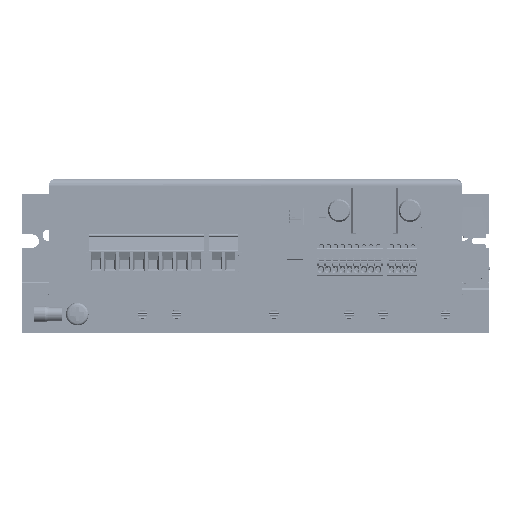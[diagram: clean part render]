
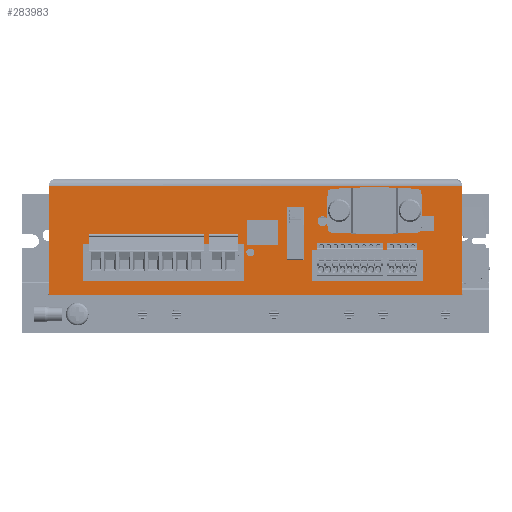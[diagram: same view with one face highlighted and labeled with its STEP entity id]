
A CAD part, top view. The second image highlights one B-rep face of the part: STEP entity #283983.
In plain terms, the highlighted planar face has unit normal (0, 0, 1).
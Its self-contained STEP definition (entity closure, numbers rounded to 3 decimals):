
#276242=CARTESIAN_POINT('',(73.,38.5,56.5));
#276244=DIRECTION('',(-1.,0.,0.));
#276245=VECTOR('',#276244,146.);
#276246=CARTESIAN_POINT('',(73.,38.5,56.5));
#276247=LINE('',#276246,#276245);
#276248=CARTESIAN_POINT('',(-73.,38.5,56.5));
#277016=DIRECTION('',(0.,-1.,0.));
#277017=VECTOR('',#277016,39.5);
#277018=CARTESIAN_POINT('',(-73.,38.5,56.5));
#277019=LINE('',#277018,#277017);
#277024=DIRECTION('',(0.,-1.,0.));
#277025=VECTOR('',#277024,39.5);
#277026=CARTESIAN_POINT('',(73.,38.5,56.5));
#277027=LINE('',#277026,#277025);
#277028=DIRECTION('',(-1.,0.,0.));
#277029=VECTOR('',#277028,146.);
#277030=CARTESIAN_POINT('',(73.,-1.,56.5));
#277031=LINE('',#277030,#277029);
#277032=DIRECTION('',(-1.,0.,0.));
#277033=VECTOR('',#277032,39.);
#277034=CARTESIAN_POINT('',(59.,16.,56.5));
#277035=LINE('',#277034,#277033);
#277036=DIRECTION('',(0.,-1.,0.));
#277037=VECTOR('',#277036,11.);
#277038=CARTESIAN_POINT('',(20.,16.,56.5));
#277039=LINE('',#277038,#277037);
#277040=DIRECTION('',(1.,0.,0.));
#277041=VECTOR('',#277040,39.);
#277042=CARTESIAN_POINT('',(20.,5.,56.5));
#277043=LINE('',#277042,#277041);
#277044=DIRECTION('',(0.,1.,0.));
#277045=VECTOR('',#277044,11.);
#277046=CARTESIAN_POINT('',(59.,5.,56.5));
#277047=LINE('',#277046,#277045);
#277048=DIRECTION('',(0.,1.,0.));
#277049=VECTOR('',#277048,13.);
#277050=CARTESIAN_POINT('',(-4.,5.,56.5));
#277051=LINE('',#277050,#277049);
#277052=DIRECTION('',(-1.,0.,0.));
#277053=VECTOR('',#277052,57.);
#277054=CARTESIAN_POINT('',(-4.,18.,56.5));
#277055=LINE('',#277054,#277053);
#277056=DIRECTION('',(0.,-1.,0.));
#277057=VECTOR('',#277056,13.);
#277058=CARTESIAN_POINT('',(-61.,18.,56.5));
#277059=LINE('',#277058,#277057);
#277060=DIRECTION('',(1.,0.,0.));
#277061=VECTOR('',#277060,57.);
#277062=CARTESIAN_POINT('',(-61.,5.,56.5));
#277063=LINE('',#277062,#277061);
#277064=DIRECTION('',(-1.,0.,0.));
#277065=VECTOR('',#277064,11.);
#277066=CARTESIAN_POINT('',(8.,26.3,56.5));
#277067=LINE('',#277066,#277065);
#277068=DIRECTION('',(0.,-1.,0.));
#277069=VECTOR('',#277068,8.5);
#277070=CARTESIAN_POINT('',(-3.,26.3,56.5));
#277071=LINE('',#277070,#277069);
#277072=DIRECTION('',(1.,0.,0.));
#277073=VECTOR('',#277072,11.);
#277074=CARTESIAN_POINT('',(-3.,17.8,56.5));
#277075=LINE('',#277074,#277073);
#277076=DIRECTION('',(0.,1.,0.));
#277077=VECTOR('',#277076,8.5);
#277078=CARTESIAN_POINT('',(8.,17.8,56.5));
#277079=LINE('',#277078,#277077);
#277080=DIRECTION('',(-1.,0.,0.));
#277081=VECTOR('',#277080,6.);
#277082=CARTESIAN_POINT('',(17.,30.9,56.5));
#277083=LINE('',#277082,#277081);
#277084=DIRECTION('',(0.,-1.,0.));
#277085=VECTOR('',#277084,18.4);
#277086=CARTESIAN_POINT('',(11.,30.9,56.5));
#277087=LINE('',#277086,#277085);
#277088=DIRECTION('',(1.,0.,0.));
#277089=VECTOR('',#277088,6.);
#277090=CARTESIAN_POINT('',(11.,12.5,56.5));
#277091=LINE('',#277090,#277089);
#277092=DIRECTION('',(0.,1.,0.));
#277093=VECTOR('',#277092,18.4);
#277094=CARTESIAN_POINT('',(17.,12.5,56.5));
#277095=LINE('',#277094,#277093);
#277096=CARTESIAN_POINT('',(-1.9,15.,56.5));
#277097=DIRECTION('',(0.,0.,1.));
#277098=DIRECTION('',(-1.,0.,0.));
#277099=AXIS2_PLACEMENT_3D('',#277096,#277097,#277098);
#277101=CARTESIAN_POINT('',(-1.9,15.,56.5));
#277102=DIRECTION('',(0.,0.,1.));
#277103=DIRECTION('',(1.,0.,0.));
#277104=AXIS2_PLACEMENT_3D('',#277101,#277102,#277103);
#277106=CARTESIAN_POINT('',(23.6,26.1,56.5));
#277107=DIRECTION('',(0.,0.,1.));
#277108=DIRECTION('',(0.,1.,0.));
#277109=AXIS2_PLACEMENT_3D('',#277106,#277107,#277108);
#277111=CARTESIAN_POINT('',(23.6,26.1,56.5));
#277112=DIRECTION('',(0.,0.,1.));
#277113=DIRECTION('',(0.,-1.,0.));
#277114=AXIS2_PLACEMENT_3D('',#277111,#277112,#277113);
#277116=DIRECTION('',(0.,1.,0.));
#277117=VECTOR('',#277116,9.);
#277118=CARTESIAN_POINT('',(58.5,28.,56.5));
#277119=LINE('',#277118,#277117);
#277120=DIRECTION('',(-1.,0.,0.));
#277121=VECTOR('',#277120,33.);
#277122=CARTESIAN_POINT('',(58.5,37.,56.5));
#277123=LINE('',#277122,#277121);
#277124=DIRECTION('',(0.,-1.,0.));
#277125=VECTOR('',#277124,14.5);
#277126=CARTESIAN_POINT('',(25.5,37.,56.5));
#277127=LINE('',#277126,#277125);
#277128=DIRECTION('',(1.,0.,0.));
#277129=VECTOR('',#277128,33.);
#277130=CARTESIAN_POINT('',(25.5,22.5,56.5));
#277131=LINE('',#277130,#277129);
#277132=DIRECTION('',(1.,0.,0.));
#277133=VECTOR('',#277132,4.5);
#277134=CARTESIAN_POINT('',(58.5,22.5,56.5));
#277135=LINE('',#277134,#277133);
#277136=DIRECTION('',(0.,1.,0.));
#277137=VECTOR('',#277136,5.5);
#277138=CARTESIAN_POINT('',(63.,22.5,56.5));
#277139=LINE('',#277138,#277137);
#277140=DIRECTION('',(-1.,0.,0.));
#277141=VECTOR('',#277140,4.5);
#277142=CARTESIAN_POINT('',(63.,28.,56.5));
#277143=LINE('',#277142,#277141);
#280959=VERTEX_POINT('',#276248);
#280962=VERTEX_POINT('',#276242);
#281541=CARTESIAN_POINT('',(-73.,-1.,56.5));
#281542=VERTEX_POINT('',#281541);
#281543=CARTESIAN_POINT('',(73.,-1.,56.5));
#281544=VERTEX_POINT('',#281543);
#281545=CARTESIAN_POINT('',(59.,16.,56.5));
#281546=CARTESIAN_POINT('',(20.,16.,56.5));
#281547=VERTEX_POINT('',#281545);
#281548=VERTEX_POINT('',#281546);
#281549=CARTESIAN_POINT('',(20.,5.,56.5));
#281550=VERTEX_POINT('',#281549);
#281551=CARTESIAN_POINT('',(59.,5.,56.5));
#281552=VERTEX_POINT('',#281551);
#281553=CARTESIAN_POINT('',(-4.,5.,56.5));
#281554=CARTESIAN_POINT('',(-4.,18.,56.5));
#281555=VERTEX_POINT('',#281553);
#281556=VERTEX_POINT('',#281554);
#281557=CARTESIAN_POINT('',(-61.,18.,56.5));
#281558=VERTEX_POINT('',#281557);
#281559=CARTESIAN_POINT('',(-61.,5.,56.5));
#281560=VERTEX_POINT('',#281559);
#281561=CARTESIAN_POINT('',(8.,26.3,56.5));
#281562=CARTESIAN_POINT('',(-3.,26.3,56.5));
#281563=VERTEX_POINT('',#281561);
#281564=VERTEX_POINT('',#281562);
#281565=CARTESIAN_POINT('',(-3.,17.8,56.5));
#281566=VERTEX_POINT('',#281565);
#281567=CARTESIAN_POINT('',(8.,17.8,56.5));
#281568=VERTEX_POINT('',#281567);
#281569=CARTESIAN_POINT('',(17.,30.9,56.5));
#281570=CARTESIAN_POINT('',(11.,30.9,56.5));
#281571=VERTEX_POINT('',#281569);
#281572=VERTEX_POINT('',#281570);
#281573=CARTESIAN_POINT('',(11.,12.5,56.5));
#281574=VERTEX_POINT('',#281573);
#281575=CARTESIAN_POINT('',(17.,12.5,56.5));
#281576=VERTEX_POINT('',#281575);
#281577=CARTESIAN_POINT('',(-3.27,15.,56.5));
#281578=CARTESIAN_POINT('',(-0.53,15.,56.5));
#281579=VERTEX_POINT('',#281577);
#281580=VERTEX_POINT('',#281578);
#281581=CARTESIAN_POINT('',(23.6,27.85,56.5));
#281582=CARTESIAN_POINT('',(23.6,24.35,56.5));
#281583=VERTEX_POINT('',#281581);
#281584=VERTEX_POINT('',#281582);
#281585=CARTESIAN_POINT('',(58.5,28.,56.5));
#281586=CARTESIAN_POINT('',(58.5,37.,56.5));
#281587=VERTEX_POINT('',#281585);
#281588=VERTEX_POINT('',#281586);
#281589=CARTESIAN_POINT('',(25.5,37.,56.5));
#281590=VERTEX_POINT('',#281589);
#281591=CARTESIAN_POINT('',(25.5,22.5,56.5));
#281592=VERTEX_POINT('',#281591);
#281593=CARTESIAN_POINT('',(58.5,22.5,56.5));
#281594=VERTEX_POINT('',#281593);
#281595=CARTESIAN_POINT('',(63.,22.5,56.5));
#281596=VERTEX_POINT('',#281595);
#281597=CARTESIAN_POINT('',(63.,28.,56.5));
#281598=VERTEX_POINT('',#281597);
#283902=CARTESIAN_POINT('',(-73.,0.,56.5));
#283903=DIRECTION('',(0.,0.,1.));
#283904=DIRECTION('',(1.,0.,0.));
#283905=AXIS2_PLACEMENT_3D('',#283902,#283903,#283904);
#283906=PLANE('',#283905);
#283908=ORIENTED_EDGE('',*,*,#283907,.T.);
#283910=ORIENTED_EDGE('',*,*,#283909,.T.);
#283911=ORIENTED_EDGE('',*,*,#283893,.F.);
#283912=ORIENTED_EDGE('',*,*,#283054,.F.);
#283913=EDGE_LOOP('',(#283908,#283910,#283911,#283912));
#283914=FACE_OUTER_BOUND('',#283913,.F.);
#283916=ORIENTED_EDGE('',*,*,#283915,.T.);
#283918=ORIENTED_EDGE('',*,*,#283917,.T.);
#283920=ORIENTED_EDGE('',*,*,#283919,.T.);
#283922=ORIENTED_EDGE('',*,*,#283921,.T.);
#283923=EDGE_LOOP('',(#283916,#283918,#283920,#283922));
#283924=FACE_BOUND('',#283923,.F.);
#283926=ORIENTED_EDGE('',*,*,#283925,.T.);
#283928=ORIENTED_EDGE('',*,*,#283927,.T.);
#283930=ORIENTED_EDGE('',*,*,#283929,.T.);
#283932=ORIENTED_EDGE('',*,*,#283931,.T.);
#283933=EDGE_LOOP('',(#283926,#283928,#283930,#283932));
#283934=FACE_BOUND('',#283933,.F.);
#283936=ORIENTED_EDGE('',*,*,#283935,.T.);
#283938=ORIENTED_EDGE('',*,*,#283937,.T.);
#283940=ORIENTED_EDGE('',*,*,#283939,.T.);
#283942=ORIENTED_EDGE('',*,*,#283941,.T.);
#283943=EDGE_LOOP('',(#283936,#283938,#283940,#283942));
#283944=FACE_BOUND('',#283943,.F.);
#283946=ORIENTED_EDGE('',*,*,#283945,.T.);
#283948=ORIENTED_EDGE('',*,*,#283947,.T.);
#283950=ORIENTED_EDGE('',*,*,#283949,.T.);
#283952=ORIENTED_EDGE('',*,*,#283951,.T.);
#283953=EDGE_LOOP('',(#283946,#283948,#283950,#283952));
#283954=FACE_BOUND('',#283953,.F.);
#283956=ORIENTED_EDGE('',*,*,#283955,.T.);
#283958=ORIENTED_EDGE('',*,*,#283957,.T.);
#283959=EDGE_LOOP('',(#283956,#283958));
#283960=FACE_BOUND('',#283959,.F.);
#283962=ORIENTED_EDGE('',*,*,#283961,.T.);
#283964=ORIENTED_EDGE('',*,*,#283963,.T.);
#283965=EDGE_LOOP('',(#283962,#283964));
#283966=FACE_BOUND('',#283965,.F.);
#283968=ORIENTED_EDGE('',*,*,#283967,.T.);
#283970=ORIENTED_EDGE('',*,*,#283969,.T.);
#283972=ORIENTED_EDGE('',*,*,#283971,.T.);
#283974=ORIENTED_EDGE('',*,*,#283973,.T.);
#283976=ORIENTED_EDGE('',*,*,#283975,.T.);
#283978=ORIENTED_EDGE('',*,*,#283977,.T.);
#283980=ORIENTED_EDGE('',*,*,#283979,.T.);
#283981=EDGE_LOOP('',(#283968,#283970,#283972,#283974,#283976,#283978,#283980));
#283982=FACE_BOUND('',#283981,.F.);
#283983=ADVANCED_FACE('',(#283914,#283924,#283934,#283944,#283954,#283960,
#283966,#283982),#283906,.T.);
#277100=CIRCLE('',#277099,1.37);
#277105=CIRCLE('',#277104,1.37);
#277110=CIRCLE('',#277109,1.75);
#277115=CIRCLE('',#277114,1.75);
#283054=EDGE_CURVE('',#280962,#280959,#276247,.T.);
#283893=EDGE_CURVE('',#280959,#281542,#277019,.T.);
#283907=EDGE_CURVE('',#280962,#281544,#277027,.T.);
#283909=EDGE_CURVE('',#281544,#281542,#277031,.T.);
#283915=EDGE_CURVE('',#281547,#281548,#277035,.T.);
#283917=EDGE_CURVE('',#281548,#281550,#277039,.T.);
#283919=EDGE_CURVE('',#281550,#281552,#277043,.T.);
#283921=EDGE_CURVE('',#281552,#281547,#277047,.T.);
#283925=EDGE_CURVE('',#281555,#281556,#277051,.T.);
#283927=EDGE_CURVE('',#281556,#281558,#277055,.T.);
#283929=EDGE_CURVE('',#281558,#281560,#277059,.T.);
#283931=EDGE_CURVE('',#281560,#281555,#277063,.T.);
#283935=EDGE_CURVE('',#281563,#281564,#277067,.T.);
#283937=EDGE_CURVE('',#281564,#281566,#277071,.T.);
#283939=EDGE_CURVE('',#281566,#281568,#277075,.T.);
#283941=EDGE_CURVE('',#281568,#281563,#277079,.T.);
#283945=EDGE_CURVE('',#281571,#281572,#277083,.T.);
#283947=EDGE_CURVE('',#281572,#281574,#277087,.T.);
#283949=EDGE_CURVE('',#281574,#281576,#277091,.T.);
#283951=EDGE_CURVE('',#281576,#281571,#277095,.T.);
#283955=EDGE_CURVE('',#281579,#281580,#277100,.T.);
#283957=EDGE_CURVE('',#281580,#281579,#277105,.T.);
#283961=EDGE_CURVE('',#281583,#281584,#277110,.T.);
#283963=EDGE_CURVE('',#281584,#281583,#277115,.T.);
#283967=EDGE_CURVE('',#281587,#281588,#277119,.T.);
#283969=EDGE_CURVE('',#281588,#281590,#277123,.T.);
#283971=EDGE_CURVE('',#281590,#281592,#277127,.T.);
#283973=EDGE_CURVE('',#281592,#281594,#277131,.T.);
#283975=EDGE_CURVE('',#281594,#281596,#277135,.T.);
#283977=EDGE_CURVE('',#281596,#281598,#277139,.T.);
#283979=EDGE_CURVE('',#281598,#281587,#277143,.T.);
